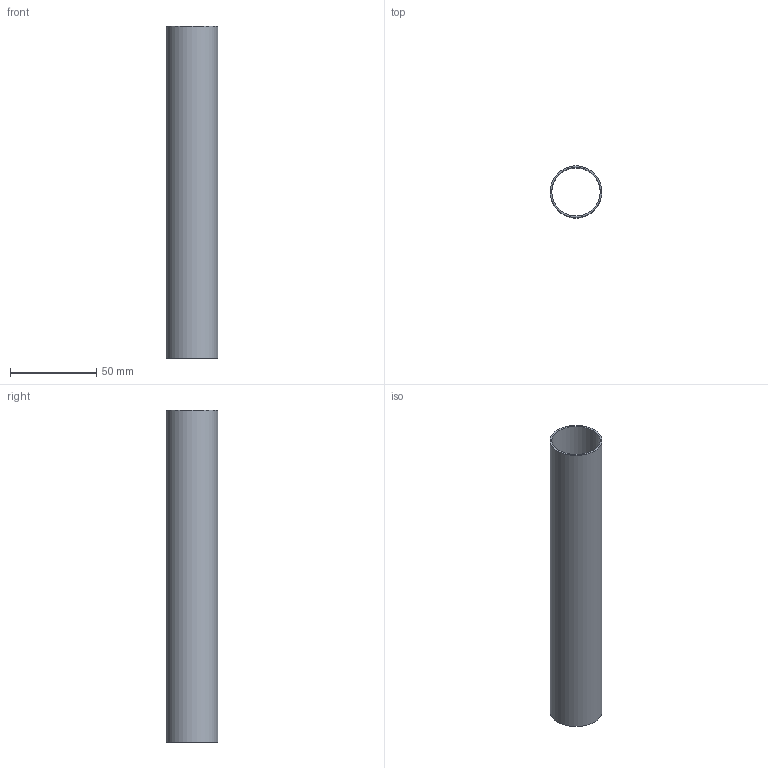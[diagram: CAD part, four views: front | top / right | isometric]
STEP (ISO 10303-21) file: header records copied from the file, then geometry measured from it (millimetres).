
FILE_DESCRIPTION(('FreeCAD Model'),'2;1');
FILE_NAME('Open CASCADE Shape Model','2026-10-30T15:57:35',('FreeCAD'),( 'FreeCAD'),'Open CASCADE STEP processor 7.8','FreeCAD','Unknown');
FILE_SCHEMA(('AUTOMOTIVE_DESIGN { 1 0 10303 214 1 1 1 1 }'));
Length unit declared in the file: millimetre
Products named in the file (1): Open CASCADE STEP translator 7.8 13
Bounding box: 30 x 30 x 192 mm (x, y, z)
Volume: 17492.4 mm3; surface area: 35167 mm2
Topology: 1 solids, 1 shells, 4 faces, 6 edges, 4 vertices
Faces by surface type: cylinder 2, plane 2
Full cylindrical faces by diameter (mm): 28 x1, 30 x1
Entity records: 108 total; most frequent: DIRECTION 20, CARTESIAN_POINT 15, ORIENTED_EDGE 12, AXIS2_PLACEMENT_3D 9, FACE_BOUND 6, EDGE_LOOP 6, EDGE_CURVE 6, ADVANCED_FACE 4
